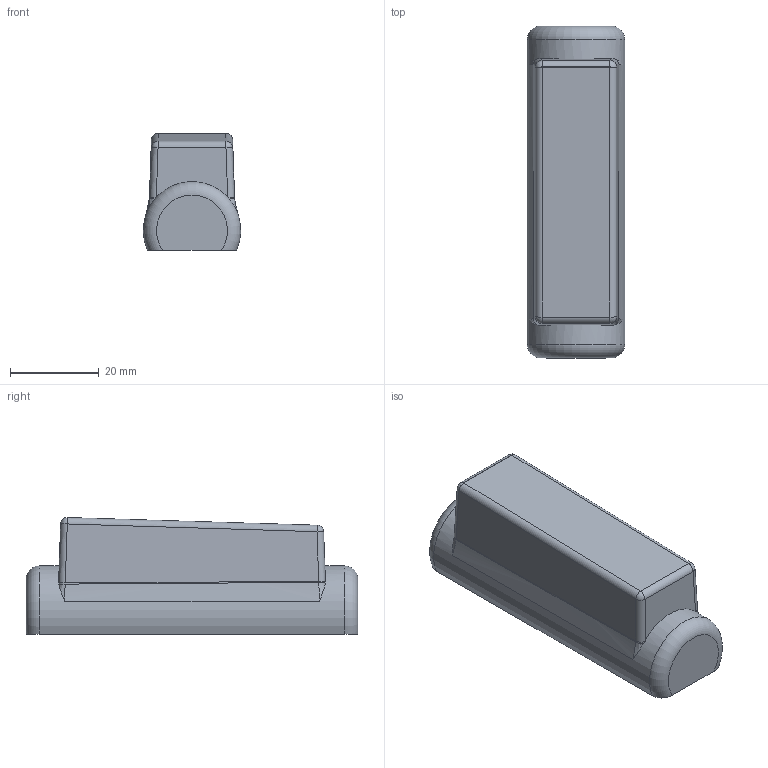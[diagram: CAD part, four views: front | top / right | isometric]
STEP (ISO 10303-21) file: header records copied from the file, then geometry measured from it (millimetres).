
FILE_DESCRIPTION(/* description */ (''),/* implementation_level */ '2;1');
FILE_NAME(/* name */ 'Mal deel 3.stp',/* time_stamp */ '2018-06-06T14:45:19+02:00',/* author */ (''),/* organization */ (''),/* preprocessor_version */ 'ST-DEVELOPER v16',/* originating_system */ 'SIEMENS PLM Software NX 11.0',/* authorisation */ '');
FILE_SCHEMA (('AUTOMOTIVE_DESIGN { 1 0 10303 214 3 1 1 1 }'));
Length unit declared in the file: millimetre
Products named in the file (1): Mal2 deel 3
Bounding box: 21.94 x 74.85 x 26.36 mm (x, y, z)
Volume: 34131.9 mm3; surface area: 7069.2 mm2
Topology: 1 solids, 1 shells, 36 faces, 86 edges, 48 vertices
Faces by surface type: cylinder 11, bspline 10, plane 9, sphere 4, torus 2
Entity records: 1124 total; most frequent: CARTESIAN_POINT 363, ORIENTED_EDGE 158, DIRECTION 149, EDGE_CURVE 79, AXIS2_PLACEMENT_3D 63, VERTEX_POINT 46, EDGE_LOOP 37, ADVANCED_FACE 36
